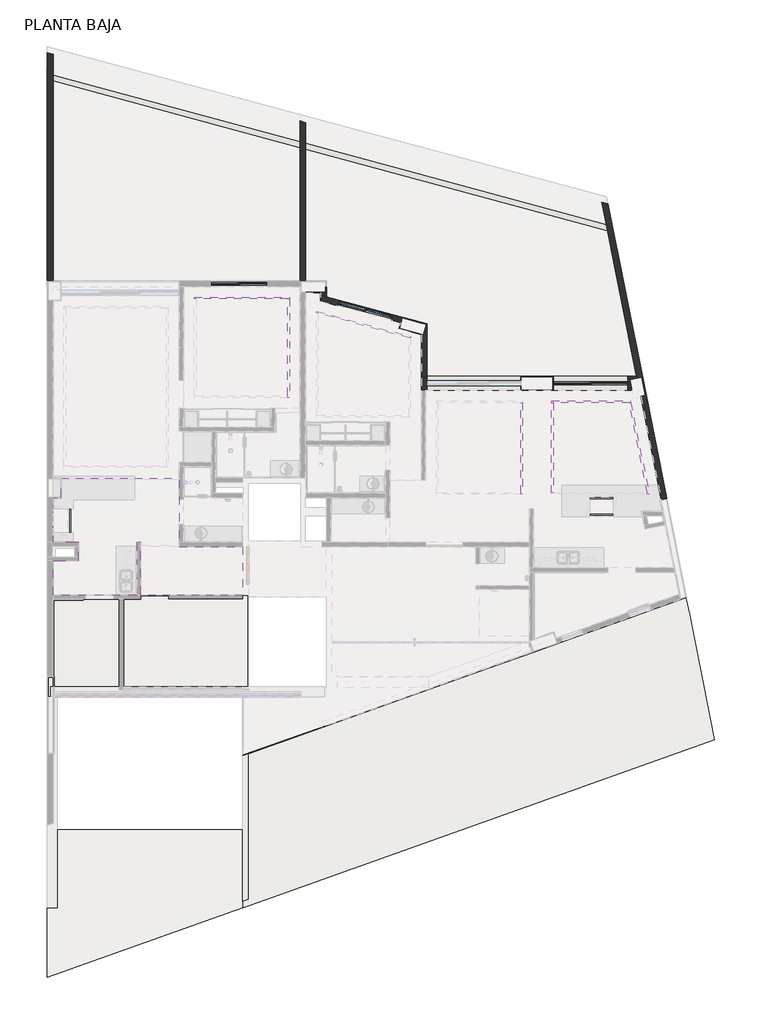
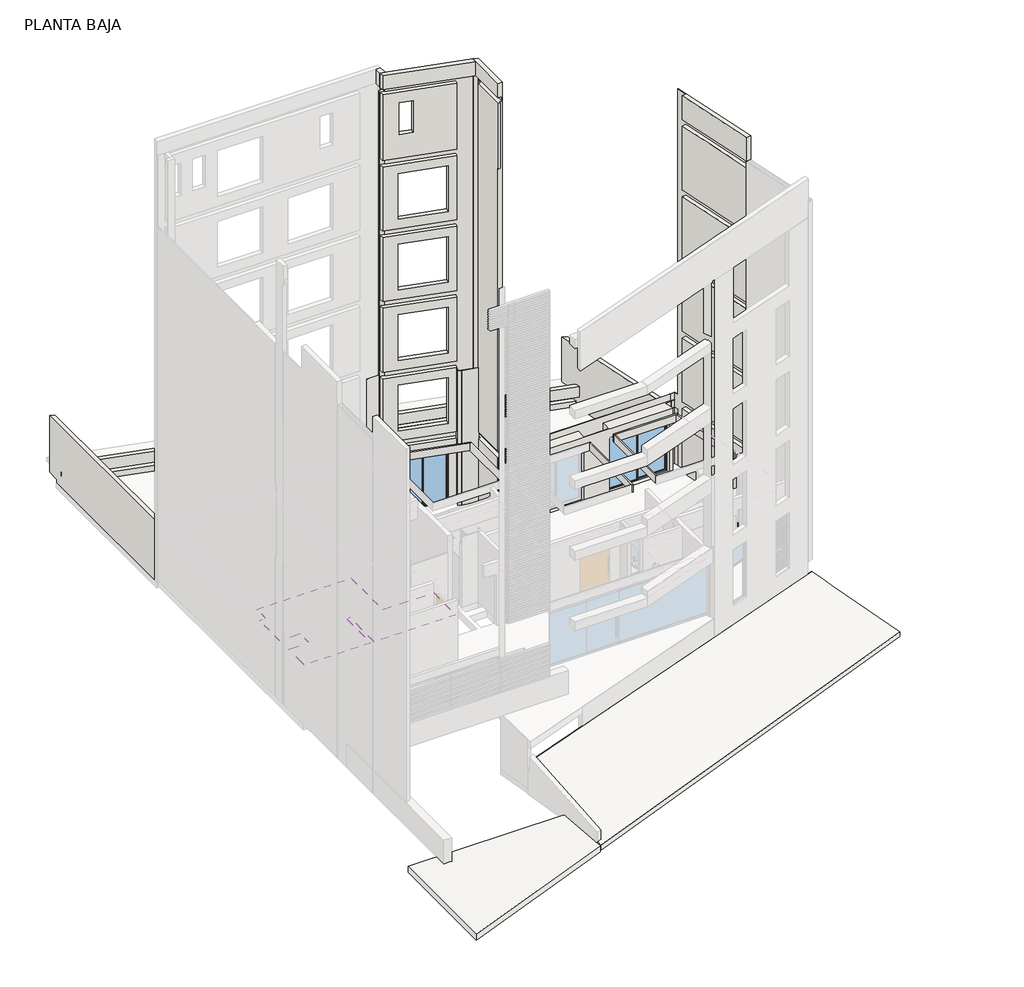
# One storey, part 7 of 8: 20 walls, 3 roofs, 3 slabs, 3 windows, 1 covering.
"""IFC4 building model written with IfcOpenShell, lengths in millimetres."""

from ifc_helpers import new_model, si_unit, frame, origin, place, context, project, spatial, polyline, outline, extrude, faceted_brep, transform, mapped, element, save
from ifc_brep_helpers import plane_surface, spline_surface, advanced_brep
from components import roof_bbefa7aa, roof_b6cbc9c0, roof_d96188d7, window_99f860c4, window_46afee40

model = new_model("IFC4")

# Units and contexts
model_context = context("Model", 3, world=origin())
ifc_project = project(units=[si_unit("LENGTHUNIT", "METRE", prefix="MILLI")], contexts=[model_context])

# Site, building, storey
site = spatial("IfcSite", under=ifc_project)
building = spatial("IfcBuilding", under=site)
storey = spatial("IfcBuildingStorey", under=building, Name="PLANTA BAJA", Elevation=0.0)

# Covering
placement = place(None, origin())
element("IfcCovering", 1, ObjectType="Plafond Tablaroca", at=placement, inside=storey, context=model_context, shape_type="Brep", body=[
    faceted_brep([(38194.5300226, 29724.010184, 2352.7), (38194.5300226, 31876.2733508, 2352.7), (38194.5300226, 31928.9733508, 2352.7), (34403.8589874, 31928.9733508, 2352.7), (34403.8589874, 31876.2733508, 2352.7), (34403.8589874, 31298.9733508, 2352.7), (34143.8589874, 31298.9733508, 2352.7), (34143.8589874, 29864.010184, 2352.7), (34963.8589874, 29864.010184, 2352.7), (34963.8589874, 29274.010184, 2352.7), (34143.8589874, 29274.010184, 2352.7), (34143.8589874, 28172.0432167, 2352.7), (36825.8300226, 28172.0432167, 2352.7), (36825.8300226, 29864.010184, 2352.7), (36965.8300226, 29864.010184, 2352.7), (36965.8300226, 28169.7432167, 2352.7), (40234.5059119, 28169.7432167, 2352.7), (40234.5059119, 29724.010184, 2352.7), (38194.5300226, 29724.010184, 2300.0), (40234.5059119, 29724.010184, 2300.0), (40234.5059119, 28169.7432167, 2300.0), (36965.8300226, 28169.7432167, 2300.0), (36965.8300226, 29864.010184, 2300.0), (36825.8300226, 29864.010184, 2300.0), (36825.8300226, 28172.0432167, 2300.0), (34143.8589874, 28172.0432167, 2300.0), (34143.8589874, 29274.010184, 2300.0), (34963.8589874, 29274.010184, 2300.0), (34963.8589874, 29864.010184, 2300.0), (34143.8589874, 29864.010184, 2300.0), (34143.8589874, 31298.9733508, 2300.0), (34403.8589874, 31298.9733508, 2300.0), (34403.8589874, 31928.9733508, 2300.0), (38194.5300226, 31928.9733508, 2300.0)], [[[0, 1, 2, 3, 4, 5, 6, 7, 8, 9, 10, 11, 12, 13, 14, 15, 16, 17]], [[18, 19, 20, 21, 22, 23, 24, 25, 26, 27, 28, 29, 30, 31, 32, 33]], [[5, 4, 3, 32, 31]], [[6, 5, 31, 30]], [[7, 6, 30, 29]], [[8, 7, 29, 28]], [[9, 8, 28, 27]], [[10, 9, 27, 26]], [[11, 10, 26, 25]], [[12, 11, 25, 24]], [[13, 12, 24, 23]], [[14, 13, 23, 22]], [[15, 14, 22, 21]], [[16, 15, 21, 20]], [[2, 1, 0, 18, 33]], [[3, 2, 33, 32]], [[17, 16, 20, 19]], [[0, 17, 19, 18]]]),
])

# Roofs
roof_shape = roof_bbefa7aa(model_context)
element("IfcRoof", 2, ObjectType="banqueton : banqueton", at=placement, inside=storey, context=model_context, shape_type="MappedRepresentation", body=[
    mapped(roof_shape, transform((0.0, 0.0, 0.0), x_axis=(1.0, 0.0, 0.0), y_axis=(0.0, 1.0, 0.0), z_axis=(0.0, 0.0, 1.0))),
])
roof_2_shape = roof_b6cbc9c0(model_context)
element("IfcRoof", 3, ObjectType="banqueton1 : banqueton", at=placement, inside=storey, context=model_context, shape_type="MappedRepresentation", body=[
    mapped(roof_2_shape, transform((0.0, 0.0, 0.0), x_axis=(1.0, 0.0, 0.0), y_axis=(0.0, 1.0, 0.0), z_axis=(0.0, 0.0, 1.0))),
])
roof_3_shape = roof_d96188d7(model_context)
element("IfcRoof", 4, ObjectType="banqueton2 : banqueton", at=placement, inside=storey, context=model_context, shape_type="MappedRepresentation", body=[
    mapped(roof_3_shape, transform((0.0, 0.0, 0.0), x_axis=(1.0, 0.0, 0.0), y_axis=(0.0, 1.0, 0.0), z_axis=(0.0, 0.0, 1.0))),
])

# Slabs
element("IfcSlab", 5, ObjectType="Suelo-losa 20cms+ceramica_ext 2 LOSA ESTACIONAMIENTO VISITAS", at=placement, inside=storey, context=model_context, shape_type="AdvancedBrep", body=[
    advanced_brep(
    [(55394.5443621, 23533.1124469, -1120.0), (55394.5443621, 23533.1124469, -920.0), (40254.5059119, 18137.9058422, -1420.0), (40254.5059119, 18137.9058422, -1620.0), (40252.1714705, 23018.2962946, -800.0), (40252.1613163, 23039.524613, -800.0), (40252.1613163, 23039.524613, -1000.0), (40252.1714705, 23018.2962946, -1000.0), (42896.1248923, 23981.7104466, -800.0), (54478.0509778, 28108.9710423, -800.0), (54478.0509778, 28108.9710423, -1000.0), (42896.1248923, 23981.7104466, -1000.0), (54482.0201998, 28089.1535518, -804.2107044), (54482.0201998, 28089.1535518, -1004.2107044)],
    [
        (0, 1),
        (1, 2),
        (2, 3),
        (3, 0),
        (2, 4),
        (4, 5),
        (5, 6),
        (6, 7),
        (7, 3),
        (5, 8),
        (8, 9),
        (9, 10),
        (10, 11),
        (11, 6),
        (9, 12),
        (12, 1),
        (0, 13),
        (13, 10),
        (4, 12),
        (13, 7),
    ],
    [
        plane_surface(frame((55394.5443621, 23533.1124469, -200.0), z_axis=(0.3356769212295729, -0.9419771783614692, 0.0), x_axis=(0.0, 0.0, 1.0))),
        plane_surface(frame((40254.5059119, 18137.9058422, -200.0), z_axis=(-0.9999998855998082, -0.0004783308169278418, 0.0), x_axis=(0.0, 0.0, 1.0))),
        plane_surface(frame((40252.1613163, 23039.524613, -200.0), z_axis=(-0.33567692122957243, 0.9419771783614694, 0.0), x_axis=(0.0, 0.0, 1.0))),
        plane_surface(frame((54478.0509778, 28108.9710423, -200.0), z_axis=(0.9805261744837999, 0.19638844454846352, 0.0), x_axis=(0.0, 0.0, 1.0))),
        spline_surface(1, 1, [[(40252.1613163, 23039.524613, -800.0), (54478.0509778, 28108.9710423, -800.0)], [(40252.1714705, 23018.2962946, -800.0), (54482.0201998, 28089.1535518, -804.2107044)]], [2, 2], [2, 2], [0.0, 1.0], [0.0, 1.0]),
        spline_surface(1, 1, [[(40252.1613163, 23039.524613, -1000.0), (40252.1714705, 23018.2962946, -1000.0)], [(54478.0509778, 28108.9710423, -1000.0), (54482.0201998, 28089.1535518, -1004.2107044)]], [2, 2], [2, 2], [0.0, 1.0], [0.0, 1.0]),
        spline_surface(1, 1, [[(55394.5443621, 23533.1124469, -920.0), (40254.5059119, 18137.9058422, -1420.0)], [(54482.0201998, 28089.1535518, -804.2107044), (40252.1714705, 23018.2962946, -800.0)]], [2, 2], [2, 2], [0.0, 1.0], [0.0, 1.0]),
        spline_surface(1, 1, [[(55394.5443621, 23533.1124469, -1120.0), (54482.0201998, 28089.1535518, -1004.2107044)], [(40254.5059119, 18137.9058422, -1620.0), (40252.1714705, 23018.2962946, -1000.0)]], [2, 2], [2, 2], [0.0, 1.0], [0.0, 1.0]),
    ],
    [
        (0, [[1, 2, 3, 4]]),
        (1, [[-3, 5, 6, 7, 8, 9]]),
        (2, [[-7, 10, 11, 12, 13, 14]]),
        (3, [[-12, 15, 16, -1, 17, 18]]),
        (4, [[-11, -10, -6, 19, -15]]),
        (5, [[-18, 20, -8, -14, -13]]),
        (6, [[-2, -16, -19, -5]]),
        (7, [[-9, -20, -17, -4]]),
    ],
),
])
element("IfcSlab", 6, ObjectType="Suelo-losa 15cms+ceramica PB ESTUDIO", at=placement, inside=storey, context=model_context, shape_type="Brep", body=[
    faceted_brep([(33983.8589874, 24924.0112971, 0.0), (33983.8589874, 25552.4819737, 0.0), (33983.8589874, 27969.7432167, 0.0), (33983.8589874, 28157.0432167, 0.0), (34143.8589874, 28157.0432167, 0.0), (36965.8300226, 28157.0432167, 0.0), (40234.5059119, 28157.0432167, 0.0), (40394.5059119, 28157.0432167, 0.0), (40394.5059119, 25224.0112971, 0.0), (40394.5059119, 24924.0112971, 0.0), (34068.8589874, 24924.0112971, 0.0), (33983.8589874, 24924.0112971, 180.0), (34068.8589874, 24924.0112971, 180.0), (40394.5059119, 24924.0112971, 180.0), (40394.5059119, 25224.0112971, 180.0), (40394.5059119, 28157.0432167, 180.0), (40234.5059119, 28157.0432167, 180.0), (37865.8300226, 28157.0432167, 180.0), (36965.8300226, 28157.0432167, 180.0), (34143.8589874, 28157.0432167, 180.0), (33983.8589874, 28157.0432167, 180.0), (33983.8589874, 25552.4819737, 180.0)], [[[0, 1, 2, 3, 4, 5, 6, 7, 8, 9, 10]], [[11, 12, 13, 14, 15, 16, 17, 18, 19, 20, 21]], [[3, 2, 1, 0, 11, 21, 20]], [[0, 10, 9, 13, 12, 11]], [[7, 6, 5, 4, 3, 20, 19, 18, 17, 16, 15]], [[9, 8, 7, 15, 14, 13]]]),
])
element("IfcSlab", 7, ObjectType="Losa sótano en rampa", at=placement, inside=storey, context=model_context, shape_type="AdvancedBrep", body=[
    advanced_brep(
    [(40234.5059119, 18130.778771, -1670.0), (40234.5059119, 18130.778771, -1420.0), (33963.8589874, 15896.211414, -1630.0), (33963.8589874, 15896.211414, -1880.0), (33963.8589874, 20637.9058422, -1630.0), (33963.8589874, 20637.9058422, -1880.0), (40234.5059119, 20637.9058422, -1630.0), (40234.5059119, 20637.9058422, -1880.0)],
    [
        (0, 1),
        (1, 2),
        (2, 3),
        (3, 0),
        (2, 4),
        (4, 5),
        (5, 3),
        (4, 6),
        (6, 7),
        (7, 5),
        (6, 1),
        (0, 7),
    ],
    [
        plane_surface(frame((40234.5059119, 18130.778771, -250.0), z_axis=(0.33567692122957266, -0.9419771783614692, 0.0), x_axis=(0.0, 0.0, 1.0))),
        plane_surface(frame((33963.8589874, 15896.211414, -250.0), z_axis=(-1.0, 0.0, 0.0), x_axis=(0.0, 0.0, 1.0))),
        plane_surface(frame((33963.8589874, 20637.9058422, -250.0), z_axis=(0.0, 1.0, 0.0), x_axis=(0.0, 0.0, 1.0))),
        plane_surface(frame((40234.5059119, 20637.9058422, -250.0), z_axis=(1.0, 0.0, 0.0), x_axis=(0.0, 0.0, 1.0))),
        spline_surface(1, 1, [[(40234.5059119, 18130.778771, -1420.0), (33963.8589874, 15896.211414, -1630.0)], [(40234.5059119, 20637.9058422, -1630.0), (33963.8589874, 20637.9058422, -1630.0)]], [2, 2], [2, 2], [0.0, 1.0], [0.0, 1.0]),
        spline_surface(1, 1, [[(40234.5059119, 18130.778771, -1670.0), (40234.5059119, 20637.9058422, -1880.0)], [(33963.8589874, 15896.211414, -1880.0), (33963.8589874, 20637.9058422, -1880.0)]], [2, 2], [2, 2], [0.0, 1.0], [0.0, 1.0]),
    ],
    [
        (0, [[1, 2, 3, 4]]),
        (1, [[-3, 5, 6, 7]]),
        (2, [[-6, 8, 9, 10]]),
        (3, [[-9, 11, -1, 12]]),
        (4, [[-2, -11, -8, -5]]),
        (5, [[-7, -10, -12, -4]]),
    ],
),
])

# Walls
element("IfcWall", 8, ObjectType="Plafond tablaroca", at=placement, inside=storey, context=model_context, shape_type="Brep", body=[
    faceted_brep([(38681.8300226, 37680.4026232, 2502.7), (38734.5300226, 37680.4026232, 2502.7), (41684.5059119, 37680.4026232, 2502.7), (41737.2059119, 37680.4026232, 2502.7), (41737.2059119, 37680.4026232, 2720.0), (41684.5059119, 37680.4026232, 2720.0), (38734.5300226, 37680.4026232, 2720.0), (38681.8300226, 37680.4026232, 2720.0), (38681.8300226, 37733.1026232, 2502.7), (38681.8300226, 37733.1026232, 2720.0), (41737.2059119, 37733.1026232, 2720.0), (41737.2059119, 37733.1026232, 2502.7)], [[[0, 1, 2, 3, 4, 5, 6, 7]], [[8, 9, 10, 11]], [[7, 6, 5, 4, 10, 9]], [[4, 3, 11, 10]], [[0, 7, 9, 8]], [[3, 2, 1, 0, 8, 11]]]),
])
element("IfcWall", 9, ObjectType="Plafond tablaroca", at=placement, inside=storey, context=model_context, shape_type="Brep", body=[
    faceted_brep([(41684.5059119, 37680.4026232, 2502.7), (41684.5059119, 34568.9785701, 2502.7), (41684.5059119, 34516.2785701, 2502.7), (41684.5059119, 34516.2785701, 2720.0), (41684.5059119, 34568.9785701, 2720.0), (41684.5059119, 37680.4026232, 2720.0), (41737.2059119, 37680.4026232, 2502.7), (41737.2059119, 37680.4026232, 2720.0), (41737.2059119, 34516.2785701, 2720.0), (41737.2059119, 34516.2785701, 2502.7)], [[[0, 1, 2, 3, 4, 5]], [[6, 7, 8, 9]], [[5, 4, 3, 8, 7]], [[0, 5, 7, 6]], [[3, 2, 9, 8]], [[2, 1, 0, 6, 9]]]),
])
element("IfcWall", 10, ObjectType="Plafond tablaroca", at=placement, inside=storey, context=model_context, shape_type="Brep", body=[
    faceted_brep([(42611.8059119, 37233.5489662, 2402.7), (42664.5059119, 37219.3779563, 2402.7), (45574.5059119, 36436.8800645, 2402.7), (45627.2059119, 36422.7090546, 2402.7), (45627.2059119, 36422.7090546, 2720.0), (45574.5059119, 36436.8800645, 2720.0), (42664.5059119, 37219.3779563, 2720.0), (42611.8059119, 37233.5489662, 2720.0), (42611.8059119, 37288.121006, 2402.7), (42611.8059119, 37288.121006, 2720.0), (45627.2059119, 36477.2810943, 2720.0), (45627.2059119, 36477.2810943, 2402.7)], [[[0, 1, 2, 3, 4, 5, 6, 7]], [[8, 9, 10, 11]], [[7, 6, 5, 4, 10, 9]], [[4, 3, 11, 10]], [[0, 7, 9, 8]], [[3, 2, 1, 0, 8, 11]]]),
])
element("IfcWall", 11, ObjectType="Plafond tablaroca", at=placement, inside=storey, context=model_context, shape_type="Brep", body=[
    faceted_brep([(49174.5059119, 34354.0104642, 2402.7), (49174.5059119, 31464.0100656, 2402.7), (49174.5059119, 31411.3100656, 2402.7), (49174.5059119, 31411.3100656, 2720.0), (49174.5059119, 31464.0100656, 2720.0), (49174.5059119, 34354.0104642, 2720.0), (49227.2059119, 34354.0104642, 2402.7), (49227.2059119, 34354.0104642, 2720.0), (49227.2059119, 31411.3100656, 2720.0), (49227.2059119, 31411.3100656, 2402.7)], [[[0, 1, 2, 3, 4, 5]], [[6, 7, 8, 9]], [[5, 4, 3, 8, 7]], [[0, 5, 7, 6]], [[3, 2, 9, 8]], [[2, 1, 0, 6, 9]]]),
])
element("IfcWall", 12, ObjectType="Plafond tablaroca", at=placement, inside=storey, context=model_context, shape_type="Brep", body=[
    faceted_brep([(50161.7822189, 34354.0104642, 2402.7), (50214.4822189, 34354.0104642, 2402.7), (52656.1173826, 34354.0104642, 2402.7), (52709.8640356, 34354.0104642, 2402.7), (52709.8640356, 34354.0104642, 2720.0), (52656.1173826, 34354.0104642, 2720.0), (50214.4822189, 34354.0104642, 2720.0), (50161.7822189, 34354.0104642, 2720.0), (50161.7822189, 34406.7104642, 2402.7), (50161.7822189, 34406.7104642, 2720.0), (52699.308814, 34406.7104642, 2720.0), (52699.308814, 34406.7104642, 2402.7)], [[[0, 1, 2, 3, 4, 5, 6, 7]], [[8, 9, 10, 11]], [[7, 6, 5, 4, 10, 9]], [[4, 3, 11, 10]], [[0, 7, 9, 8]], [[3, 2, 1, 0, 8, 11]]]),
])
element("IfcWall", 13, ObjectType="Plafond tablaroca", at=placement, inside=storey, context=model_context, shape_type="Brep", body=[
    faceted_brep([(52656.1173826, 34354.0104642, 2402.7), (53234.9521938, 31464.0100656, 2402.7), (53245.5074153, 31411.3100656, 2402.7), (53245.5074153, 31411.3100656, 2720.0), (53234.9521938, 31464.0100656, 2720.0), (52656.1173826, 34354.0104642, 2720.0), (52709.8640356, 34354.0104642, 2402.7), (52709.8640356, 34354.0104642, 2720.0), (53299.2540683, 31411.3100656, 2720.0), (53299.2540683, 31411.3100656, 2402.7)], [[[0, 1, 2, 3, 4, 5]], [[6, 7, 8, 9]], [[5, 4, 3, 8, 7]], [[0, 5, 7, 6]], [[3, 2, 9, 8]], [[2, 1, 0, 6, 9]]]),
])
element("IfcWall", 14, ObjectType="Plafond tablaroca", at=placement, inside=storey, context=model_context, shape_type="SweptSolid", body=[
    extrude(outline(polyline([(50214.4822189, 34354.0104642), (50214.4822189, 31464.0100656), (50161.7822189, 31464.0100656), (50161.7822189, 34354.0104642), (50214.4822189, 34354.0104642)])), frame((0.0, 0.0, 2402.7), z_axis=(0.0, 0.0, 1.0), x_axis=(1.0, 0.0, 0.0)), (0.0, 0.0, 1.0), 317.3),
])
element("IfcWall", 15, ObjectType="Muro block 14cms_int", at=placement, inside=storey, context=model_context, shape_type="Brep", body=[
    faceted_brep([(42264.5059119, 37875.4026232, 0.0), (42744.5059119, 37875.4026232, 0.0), (42744.5059119, 37875.4026232, 5720.0), (42264.5059119, 37875.4026232, 5720.0), (42264.5059119, 37890.4026232, 0.0), (42744.5059119, 37890.4026232, 0.0), (42744.5059119, 37890.4026232, 5720.0), (42264.5059119, 37890.4026232, 2720.0), (42264.5059119, 37890.4026232, 3000.0), (42264.5059119, 37890.4026232, 5720.0)], [[[0, 1, 2, 3]], [[1, 0, 4, 5]], [[2, 1, 5, 6]], [[5, 4, 7, 8, 9, 6]], [[3, 2, 6, 9]], [[0, 3, 9, 8, 7, 4]]]),
])
element("IfcWall", 16, ObjectType="Muro block 14cms_int", at=placement, inside=storey, context=model_context, shape_type="Brep", body=[
    faceted_brep([(45388.6002534, 36688.7969276, 0.0), (45974.5059119, 36531.2471191, 0.0), (45974.5059119, 36531.2471191, 5720.0), (45388.6002534, 36688.7969276, 5720.0), (45392.4953827, 36703.2823674, 0.0), (45974.5059119, 36546.7799578, 0.0), (45974.5059119, 36546.7799578, 2720.0), (45974.5059119, 36546.7799578, 3000.0), (45974.5059119, 36546.7799578, 5720.0), (45392.4953827, 36703.2823674, 5720.0)], [[[0, 1, 2, 3]], [[1, 0, 4, 5]], [[2, 1, 5, 6, 7, 8]], [[0, 3, 9, 4]], [[5, 4, 9, 8, 7, 6]], [[3, 2, 8, 9]]]),
])
element("IfcWall", 17, ObjectType="Muro block 14cms_int", at=placement, inside=storey, context=model_context, shape_type="Brep", body=[
    faceted_brep([(45388.6002534, 36688.7969276, 5720.0), (45388.6002534, 36688.7969276, 0.0), (45392.4953827, 36703.2823674, 0.0), (45392.4953827, 36703.2823674, 5720.0), (45306.6362479, 36923.1191455, 0.0), (45253.4028147, 36725.1514674, 0.0), (45253.4028147, 36725.1514674, 5720.0), (45306.6362479, 36923.1191455, 5720.0), (45321.1216878, 36919.2240162, 0.0), (45271.7833838, 36735.741778, 0.0), (45321.1216878, 36919.2240162, 5720.0), (45321.1216878, 36919.2240162, 3000.0), (45321.1216878, 36919.2240162, 2720.0), (45271.7833838, 36735.741778, 5720.0)], [[[0, 1, 2, 3]], [[4, 5, 6, 7]], [[5, 4, 8, 9, 2, 1]], [[1, 0, 6, 5]], [[4, 7, 10, 11, 12, 8]], [[9, 13, 3, 2]], [[13, 9, 8, 12, 11, 10]], [[7, 6, 0, 3, 13, 10]]]),
])
element("IfcWall", 18, ObjectType="Muro block 18cms_ext", at=placement, inside=storey, context=model_context, shape_type="Brep", body=[
    faceted_brep([(52899.8247733, 35174.0104642, 2720.0), (52899.8247733, 35174.0104642, 3000.0), (52895.8189966, 35194.0104642, 3000.0), (52895.8189966, 35194.0104642, 2400.0), (52906.1182793, 35142.5883131, 2400.0), (52906.1182793, 35142.5883131, 2720.0), (53689.1186644, 31233.2321699, 2720.0), (53023.9513461, 34554.2726084, 2720.0), (53023.9513461, 34554.2726084, 0.0), (53689.1186644, 31233.2321699, 0.0), (53023.9513461, 34554.2726084, 3000.0), (53076.5996985, 34291.4104642, 3000.0), (53100.1136077, 34174.0104642, 3000.0), (53310.4167001, 33124.0113812, 3000.0), (53338.4571369, 32984.0113812, 3000.0), (53689.1186644, 31233.2321699, 3000.0), (53689.1186644, 31233.2321699, 5720.0), (53338.4571369, 32984.0113812, 5720.0), (53310.4167001, 33124.0113812, 5720.0), (53023.9513461, 34554.2726084, 5720.0), (53023.9513461, 34554.2726084, 12000.0), (53027.879115, 34534.6620849, 12000.0), (53221.2947578, 33568.9784839, 12000.0), (53249.3351946, 33428.9784839, 12000.0), (53689.1186644, 31233.2321699, 12000.0), (53689.1186644, 31233.2321699, 14720.0), (53249.3351946, 33428.9784839, 14720.0), (53221.2947578, 33568.9784839, 14720.0), (53023.9513461, 34554.2726084, 14720.0), (53023.9513461, 34554.2726084, 14000.0), (53023.9513461, 34554.2726084, 9000.0), (53076.5996985, 34291.4104642, 9000.0), (53100.1136077, 34174.0104642, 9000.0), (53310.4167001, 33124.0113812, 9000.0), (53338.4571369, 32984.0113812, 9000.0), (53689.1186644, 31233.2321699, 9000.0), (53689.1186644, 31233.2321699, 11720.0), (53023.9513461, 34554.2726084, 11720.0), (53023.9513461, 34554.2726084, 6000.0), (53076.5996985, 34291.4104642, 6000.0), (53100.1136077, 34174.0104642, 6000.0), (53310.4167001, 33124.0113812, 6000.0), (53338.4571369, 32984.0113812, 6000.0), (53689.1186644, 31233.2321699, 6000.0), (53689.1186644, 31233.2321699, 8720.0), (53338.4571369, 32984.0113812, 8720.0), (53310.4167001, 33124.0113812, 8720.0), (53023.9513461, 34554.2726084, 8720.0), (53689.1186644, 31233.2321699, 16000.0), (53023.9513461, 34554.2726084, 16000.0), (53023.9513461, 34554.2726084, 15000.0), (53646.9021244, 31444.0104694, 15000.0), (53674.9425613, 31304.0104694, 15000.0), (53689.1186644, 31233.2321699, 15000.0), (53115.4458925, 35014.0104642, 16000.0), (53865.6133758, 31268.5820899, 16000.0), (53865.6133758, 31268.5820899, 15000.0), (53865.6133758, 31268.5820899, -280.0), (53119.9173487, 34991.6854242, -280.0), (53119.9173487, 34991.6854242, 2400.0), (53079.3939023, 35194.0104642, 2400.0), (53079.3939023, 35194.0104642, 3000.0), (53115.4458925, 35014.0104642, 3000.0), (53846.0028523, 31264.654321, -280.0), (53100.3068252, 34987.7576553, -280.0), (53095.0486808, 35014.0104642, 16000.0), (53180.835534, 34585.6947595, 16000.0), (53180.835534, 34585.6947595, 0.0), (53846.0028523, 31264.654321, 0.0), (53063.0024673, 35174.0104642, 3000.0), (53063.0024673, 35174.0104642, 2720.0), (53063.0024673, 35174.0104642, 2400.0), (53100.3068252, 34987.7576553, 2400.0), (53180.835534, 34585.6947595, 2720.0), (53846.0028523, 31264.654321, 2720.0), (53846.0028523, 31264.654321, 3000.0), (53180.835534, 34585.6947595, 3000.0), (53180.835534, 34585.6947595, 5720.0), (53846.0028523, 31264.654321, 5720.0), (53846.0028523, 31264.654321, 6000.0), (53180.835534, 34585.6947595, 6000.0), (53180.835534, 34585.6947595, 8720.0), (53846.0028523, 31264.654321, 8720.0), (53846.0028523, 31264.654321, 9000.0), (53180.835534, 34585.6947595, 9000.0), (53180.835534, 34585.6947595, 11720.0), (53846.0028523, 31264.654321, 11720.0), (53846.0028523, 31264.654321, 12000.0), (53180.835534, 34585.6947595, 12000.0), (53180.835534, 34585.6947595, 14720.0), (53846.0028523, 31264.654321, 14720.0), (53846.0028523, 31264.654321, 15000.0), (53180.835534, 34585.6947595, 15000.0), (53095.0486808, 35014.0104642, 3000.0)], [[[0, 1, 2, 3, 4, 5]], [[6, 7, 8, 9]], [[10, 11, 12, 13, 14, 15, 16, 17, 18, 19]], [[20, 21, 22, 23, 24, 25, 26, 27, 28, 29]], [[30, 31, 32, 33, 34, 35, 36, 37]], [[38, 39, 40, 41, 42, 43, 44, 45, 46, 47]], [[48, 49, 50, 51, 52, 53]], [[54, 55, 56, 57, 58, 59, 60, 61, 62]], [[58, 57, 63, 64]], [[55, 54, 65, 66, 49, 48]], [[9, 8, 67, 68]], [[69, 70, 71, 72, 64, 63, 68, 67, 73, 74, 75, 76, 77, 78, 79, 80, 81, 82, 83, 84, 85, 86, 87, 88, 89, 90, 91, 92, 66, 65, 93]], [[70, 0, 5]], [[7, 6, 74, 73]], [[15, 14, 13, 12, 11, 10, 76, 75]], [[70, 69, 1, 0]], [[3, 60, 59, 72, 71, 4]], [[62, 61, 2, 1, 69, 93]], [[3, 2, 61, 60]], [[54, 62, 93, 65]], [[59, 58, 64, 72]], [[76, 10, 19, 77]], [[73, 67, 8, 7]], [[80, 38, 47, 81]], [[84, 30, 37, 85]], [[88, 20, 29, 28, 89]], [[49, 66, 92, 50]], [[71, 70, 5, 4]], [[78, 77, 19, 18, 17, 16]], [[80, 79, 43, 42, 41, 40, 39, 38]], [[82, 81, 47, 46, 45, 44]], [[84, 83, 35, 34, 33, 32, 31, 30]], [[86, 85, 37, 36]], [[88, 87, 24, 23, 22, 21, 20]], [[57, 56, 55, 48, 53, 91, 90, 25, 24, 87, 86, 36, 35, 83, 82, 44, 43, 79, 78, 16, 15, 75, 74, 6, 9, 68, 63]], [[90, 89, 28, 27, 26, 25]], [[92, 91, 53, 52, 51, 50]]]),
])
element("IfcWall", 19, ObjectType="Muro block 18cms_ext", at=placement, inside=storey, context=model_context, shape_type="Brep", body=[
    faceted_brep([(45974.5059119, 35194.0104642, 18600.0), (45974.5059119, 36743.5292472, 18600.0), (45974.5059119, 36929.9233109, 18600.0), (45974.5059119, 36929.9233109, -139.1170191), (45974.5059119, 36929.9233109, -143.1125334), (45974.5059119, 36909.2128593, -143.1125334), (45974.5059119, 36909.2128593, -139.1170191), (45974.5059119, 36909.2128593, 18000.0), (45974.5059119, 36743.5292472, 18000.0), (45974.5059119, 35194.0104642, 18000.0), (45974.5059119, 35194.0104642, 15000.0), (45974.5059119, 35154.0104642, 15000.0), (45974.5059119, 35154.0104642, 17200.0), (45974.5059119, 35154.0104642, 17800.0), (45974.5059119, 36546.7799578, 17800.0), (45974.5059119, 36546.7799578, 5720.0), (45974.5059119, 36546.7799578, 3000.0), (45974.5059119, 35194.0104642, 3000.0), (45974.5059119, 35194.0104642, 5720.0), (45974.5059119, 35194.0104642, 6000.0), (45974.5059119, 35194.0104642, 8720.0), (45974.5059119, 35194.0104642, 9000.0), (45974.5059119, 35194.0104642, 11720.0), (45974.5059119, 35194.0104642, 12000.0), (45974.5059119, 35194.0104642, 14720.0), (45974.5059119, 35194.0104642, -143.1125334), (45974.5059119, 35194.0104642, 2720.0), (45974.5059119, 36546.7799578, 2720.0), (45974.5059119, 36546.7799578, 0.0), (45974.5059119, 36546.7799578, -143.1125334), (46154.5059119, 35194.0104642, -143.1125334), (46154.5059119, 36881.5213794, -143.1125334), (46154.5059119, 36881.5213794, 18600.0), (46154.5059119, 35194.0104642, 18600.0), (46154.5059119, 35194.0104642, 17350.0), (46154.5059119, 35194.0104642, 16000.0), (46154.5059119, 35194.0104642, 14350.0), (46154.5059119, 35194.0104642, 12400.0), (46154.5059119, 35194.0104642, 11350.0), (46154.5059119, 35194.0104642, 9400.0), (46154.5059119, 35194.0104642, 8350.0), (46154.5059119, 35194.0104642, 6400.0), (46154.5059119, 35194.0104642, 5350.0), (46154.5059119, 35194.0104642, 3400.0), (46154.5059119, 35194.0104642, 3000.0), (46154.5059119, 35194.0104642, 2350.0), (46154.5059119, 35194.0104642, 0.0), (46044.3401765, 36528.0015506, -143.1125334), (46135.226526, 36865.9951474, -143.1125334), (46134.5059119, 35194.0104642, 2720.0), (46134.5059119, 36863.3152848, 2720.0), (46044.3401765, 36528.0015506, 2720.0), (46134.5059119, 35194.0104642, 3000.0), (46044.3401765, 36528.0015506, 3000.0), (46134.5059119, 36863.3152848, 3000.0), (46135.226526, 36865.9951474, 17800.0), (46134.5059119, 36866.1889203, 17800.0), (46134.5059119, 36866.1889203, 18000.0), (46134.5059119, 35194.0104642, 18000.0), (46134.5059119, 36863.3152848, 17800.0), (46134.5059119, 35194.0104642, 17800.0), (46044.3401765, 36528.0015506, 17800.0), (46044.5059119, 35194.0104642, 15000.0), (46044.5059119, 35154.0104642, 15000.0), (46044.5059119, 35154.0104642, 17800.0), (46044.5059119, 35194.0104642, 17800.0)], [[[0, 1, 2, 3, 4, 5, 6, 7, 8, 9]], [[10, 11, 12, 13, 14, 15, 16, 17, 18, 19, 20, 21, 22, 23, 24]], [[25, 26, 27, 28, 29]], [[30, 31, 32, 33, 34, 35, 36, 37, 38, 39, 40, 41, 42, 43, 44, 45, 46]], [[31, 30, 25, 29, 47, 48, 5, 4]], [[2, 1, 0, 33, 32]], [[4, 3, 2, 32, 31]], [[26, 49, 50, 51, 27]], [[52, 17, 16, 53, 54]], [[5, 48, 55, 56, 57, 7, 6]], [[49, 52, 54, 50]], [[7, 57, 58, 9, 8]], [[57, 56, 59, 60, 58]], [[59, 55, 48, 47, 51, 50, 54, 53, 61]], [[51, 47, 29, 28, 27]], [[61, 53, 16, 15, 14]], [[56, 55, 59]], [[11, 10, 62, 63]], [[64, 65, 60, 59, 61, 14, 13]], [[13, 12, 11, 63, 64]], [[63, 62, 65, 64]], [[25, 30, 46, 45, 44, 43, 42, 41, 40, 39, 38, 37, 36, 35, 34, 33, 0, 9, 58, 60, 65, 62, 10, 24, 23, 22, 21, 20, 19, 18, 17, 52, 49, 26]]]),
])
element("IfcWall", 20, ObjectType="Muro block 18cms_ext", at=placement, inside=storey, context=model_context, shape_type="Brep", body=[
    faceted_brep([(45974.5059119, 36743.5292472, 18600.0), (42744.5059119, 37612.0750171, 18600.0), (42744.5059119, 37612.0750171, 18000.0), (45974.5059119, 36743.5292472, 18000.0), (43283.1097946, 37467.2446382, 0.0), (43283.1097946, 37467.2446382, 2350.0), (45021.3625782, 36999.8291266, 2350.0), (45021.3625782, 36999.8291266, 0.0), (45306.6362479, 36923.1191455, 0.0), (45321.1216878, 36919.2240162, 0.0), (45321.1216878, 36919.2240162, 2720.0), (42744.5059119, 37612.0750171, 2720.0), (42744.5059119, 37612.0750171, 0.0), (42744.5059119, 37612.0750171, 3000.0), (45321.1216878, 36919.2240162, 3000.0), (45321.1216878, 36919.2240162, 5720.0), (45306.6362479, 36923.1191455, 5720.0), (42744.5059119, 37612.0750171, 5720.0), (45021.3625782, 36999.8291266, 5350.0), (45021.3625782, 36999.8291266, 3400.0), (43283.1097946, 37467.2446382, 3400.0), (43283.1097946, 37467.2446382, 5350.0), (45321.1216878, 36919.2240162, 17800.0), (42744.5059119, 37612.0750171, 17800.0), (42744.5059119, 37612.0750171, 15000.0), (45321.1216878, 36919.2240162, 15000.0), (43318.0193132, 37457.8574819, 16000.0), (43318.0193132, 37457.8574819, 17350.0), (43800.8673087, 37328.0198398, 17350.0), (43800.8673087, 37328.0198398, 16000.0), (42744.5059119, 37612.0750171, 12000.0), (45321.1216878, 36919.2240162, 12000.0), (45321.1216878, 36919.2240162, 14720.0), (42744.5059119, 37612.0750171, 14720.0), (45021.3625782, 36999.8291266, 14350.0), (45021.3625782, 36999.8291266, 12400.0), (43283.1097946, 37467.2446382, 12400.0), (43283.1097946, 37467.2446382, 14350.0), (45321.1216878, 36919.2240162, 11720.0), (42744.5059119, 37612.0750171, 11720.0), (42744.5059119, 37612.0750171, 9000.0), (45321.1216878, 36919.2240162, 9000.0), (45021.3625782, 36999.8291266, 11350.0), (45021.3625782, 36999.8291266, 9400.0), (43283.1097946, 37467.2446382, 9400.0), (43283.1097946, 37467.2446382, 11350.0), (45321.1216878, 36919.2240162, 8720.0), (42744.5059119, 37612.0750171, 8720.0), (42744.5059119, 37612.0750171, 6000.0), (45321.1216878, 36919.2240162, 6000.0), (45021.3625782, 36999.8291266, 8350.0), (45021.3625782, 36999.8291266, 6400.0), (43283.1097946, 37467.2446382, 6400.0), (43283.1097946, 37467.2446382, 8350.0), (42744.5059119, 37798.4690808, 18600.0), (42924.5059119, 37750.0671493, 18600.0), (45974.5059119, 36929.9233109, 18600.0), (45974.5059119, 36929.9233109, -139.1170191), (42904.5059119, 37755.4451417, -139.1170191), (42904.5059119, 37755.4451417, 0.0), (42744.5059119, 37798.4690808, 0.0), (42744.5059119, 37798.4690808, 2720.0), (42904.5059119, 37755.4451417, 2720.0), (42904.5059119, 37755.4451417, 3000.0), (42744.5059119, 37798.4690808, 3000.0), (42744.5059119, 37798.4690808, 5720.0), (42904.5059119, 37755.4451417, 5720.0), (42904.5059119, 37755.4451417, 6000.0), (42744.5059119, 37798.4690808, 6000.0), (42744.5059119, 37798.4690808, 8720.0), (42904.5059119, 37755.4451417, 8720.0), (42904.5059119, 37755.4451417, 9000.0), (42744.5059119, 37798.4690808, 9000.0), (42744.5059119, 37798.4690808, 11720.0), (42904.5059119, 37755.4451417, 11720.0), (42904.5059119, 37755.4451417, 12000.0), (42744.5059119, 37798.4690808, 12000.0), (42744.5059119, 37798.4690808, 14720.0), (42904.5059119, 37755.4451417, 14720.0), (42904.5059119, 37755.4451417, 15000.0), (42744.5059119, 37798.4690808, 15000.0), (42744.5059119, 37798.4690808, 17800.0), (42904.5059119, 37755.4451417, 17800.0), (42904.5059119, 37755.4451417, 18000.0), (42744.5059119, 37798.4690808, 18000.0), (45068.1041294, 37173.654405, 3400.0), (45068.1041294, 37173.654405, 5350.0), (43329.8513458, 37641.0699165, 5350.0), (43329.8513458, 37641.0699165, 3400.0), (45068.1041294, 37173.654405, 6400.0), (45068.1041294, 37173.654405, 8350.0), (43329.8513458, 37641.0699165, 8350.0), (43329.8513458, 37641.0699165, 6400.0), (45068.1041294, 37173.654405, 9400.0), (45068.1041294, 37173.654405, 11350.0), (43329.8513458, 37641.0699165, 11350.0), (43329.8513458, 37641.0699165, 9400.0), (45068.1041294, 37173.654405, 12400.0), (45068.1041294, 37173.654405, 14350.0), (43329.8513458, 37641.0699165, 14350.0), (43329.8513458, 37641.0699165, 12400.0), (43364.7608644, 37631.6827603, 17350.0), (43364.7608644, 37631.6827603, 16000.0), (43847.6088598, 37501.8451182, 16000.0), (43847.6088598, 37501.8451182, 17350.0), (43329.8513458, 37641.0699165, 2350.0), (43329.8513458, 37641.0699165, 0.0), (45068.1041294, 37173.654405, 0.0), (45068.1041294, 37173.654405, 2350.0), (45974.5059119, 36909.2128593, -139.1170191), (42904.5059119, 37734.7346902, -139.1170191), (45974.5059119, 36909.2128593, 18000.0), (45362.6697333, 37073.7353748, 2720.0), (42904.5059119, 37734.7346902, 2720.0), (42904.5059119, 37734.7346902, 3000.0), (45362.6697333, 37073.7353748, 3000.0), (45362.6697333, 37073.7353748, 0.0), (45062.9106237, 37154.3404852, 0.0), (43324.6578401, 37621.7559967, 0.0), (42904.5059119, 37734.7346902, 0.0), (42904.5059119, 37734.7346902, 18000.0), (42904.5059119, 37734.7346902, 17800.0), (45362.6697333, 37073.7353748, 17800.0), (45362.6697333, 37073.7353748, 15000.0), (42904.5059119, 37734.7346902, 15000.0), (42904.5059119, 37734.7346902, 14720.0), (45362.6697333, 37073.7353748, 14720.0), (45362.6697333, 37073.7353748, 12000.0), (42904.5059119, 37734.7346902, 12000.0), (42904.5059119, 37734.7346902, 11720.0), (45362.6697333, 37073.7353748, 11720.0), (45362.6697333, 37073.7353748, 9000.0), (42904.5059119, 37734.7346902, 9000.0), (42904.5059119, 37734.7346902, 8720.0), (45362.6697333, 37073.7353748, 8720.0), (45362.6697333, 37073.7353748, 6000.0), (42904.5059119, 37734.7346902, 6000.0), (42904.5059119, 37734.7346902, 5720.0), (45362.6697333, 37073.7353748, 5720.0)], [[[0, 1, 2, 3]], [[4, 5, 6, 7, 8, 9, 10, 11, 12]], [[13, 14, 15, 16, 17], [18, 19, 20, 21]], [[22, 23, 24, 25], [26, 27, 28, 29]], [[30, 31, 32, 33], [34, 35, 36, 37]], [[38, 39, 40, 41], [42, 43, 44, 45]], [[46, 47, 48, 49], [50, 51, 52, 53]], [[54, 55, 56, 57, 58, 59, 60, 61, 62, 63, 64, 65, 66, 67, 68, 69, 70, 71, 72, 73, 74, 75, 76, 77, 78, 79, 80, 81, 82, 83, 84], [85, 86, 87, 88], [89, 90, 91, 92], [93, 94, 95, 96], [97, 98, 99, 100], [101, 102, 103, 104], [105, 106, 107, 108]], [[57, 109, 110, 58]], [[1, 0, 56, 55, 54]], [[57, 56, 0, 3, 111, 109]], [[61, 11, 10, 112, 113, 62]], [[13, 64, 63, 114, 115, 14]], [[114, 113, 112, 116, 117, 118, 119, 110, 109, 111, 120, 121, 122, 123, 124, 125, 126, 127, 128, 129, 130, 131, 132, 133, 134, 135, 136, 137, 138, 115]], [[86, 85, 19, 18]], [[87, 86, 18, 21]], [[88, 87, 21, 20]], [[85, 88, 20, 19]], [[90, 89, 51, 50]], [[91, 90, 50, 53]], [[92, 91, 53, 52]], [[89, 92, 52, 51]], [[94, 93, 43, 42]], [[95, 94, 42, 45]], [[96, 95, 45, 44]], [[93, 96, 44, 43]], [[98, 97, 35, 34]], [[99, 98, 34, 37]], [[100, 99, 37, 36]], [[97, 100, 36, 35]], [[81, 23, 22, 122, 121, 82]], [[120, 111, 3, 2, 84, 83]], [[27, 26, 102, 101]], [[28, 27, 101, 104]], [[29, 28, 104, 103]], [[26, 29, 103, 102]], [[105, 5, 4, 118, 106]], [[5, 105, 108, 6]], [[6, 108, 107, 117, 7]], [[107, 106, 118, 117]], [[73, 39, 38, 130, 129, 74]], [[30, 76, 75, 128, 127, 31]], [[69, 47, 46, 134, 133, 70]], [[40, 72, 71, 132, 131, 41]], [[65, 17, 16, 15, 138, 137, 66]], [[48, 68, 67, 136, 135, 49]], [[7, 117, 116, 9, 8]], [[119, 118, 4, 12, 60, 59]], [[1, 54, 84, 2]], [[11, 61, 60, 12]], [[64, 13, 17, 65]], [[23, 81, 80, 24]], [[39, 73, 72, 40]], [[76, 30, 33, 77]], [[47, 69, 68, 48]], [[119, 59, 58, 110]], [[113, 114, 63, 62]], [[137, 136, 67, 66]], [[133, 132, 71, 70]], [[129, 128, 75, 74]], [[121, 120, 83, 82]], [[31, 127, 126, 32]], [[122, 22, 25, 123]], [[131, 130, 38, 41]], [[135, 134, 46, 49]], [[116, 112, 10, 9]], [[115, 138, 15, 14]], [[126, 125, 78, 77, 33, 32]], [[124, 123, 25, 24, 80, 79]], [[125, 124, 79, 78]]]),
])
element("IfcWall", 21, ObjectType="Muro block 18cms_ext", at=placement, inside=storey, context=model_context, shape_type="Brep", body=[
    faceted_brep([(42084.5059119, 38260.4026232, 2400.0), (42084.5059119, 43396.2286325, 2400.0), (42084.5059119, 43396.2286325, 500.0), (42084.5059119, 42723.1059058, 500.0), (42084.5059119, 42557.3695237, 500.0), (42084.5059119, 42557.3695237, 350.0), (42084.5059119, 43396.2286325, 350.0), (42084.5059119, 43396.2286325, 0.0), (42084.5059119, 42888.8422878, 0.0), (42084.5059119, 42868.1252401, 0.0), (42084.5059119, 42868.1252401, -150.0), (42084.5059119, 42702.388858, -150.0), (42084.5059119, 38260.4026232, -150.0), (42264.5059119, 43347.8269863, 2400.0), (42264.5059119, 38260.4026232, 2400.0), (42264.5059119, 38260.4026232, -150.0), (42264.5059119, 42653.7588108, -150.0), (42264.5059119, 42819.4951929, -150.0), (42264.5059119, 42819.4951929, 0.0), (42264.5059119, 42840.2122406, 0.0), (42264.5059119, 43347.8269863, 0.0), (42264.5059119, 43347.8269863, 350.0), (42264.5059119, 42508.7394765, 350.0), (42264.5059119, 42508.7394765, 500.0), (42264.5059119, 42674.4758586, 500.0), (42264.5059119, 43347.8269863, 500.0)], [[[0, 1, 2, 3, 4, 5, 6, 7, 8, 9, 10, 11, 12]], [[13, 14, 15, 16, 17, 18, 19, 20, 21, 22, 23, 24, 25]], [[1, 0, 14, 13]], [[0, 12, 15, 14]], [[20, 7, 6, 21]], [[1, 13, 25, 2]], [[7, 20, 19, 18, 9, 8]], [[9, 18, 17, 10]], [[12, 11, 10, 17, 16, 15]], [[5, 22, 21, 6]], [[23, 4, 3, 2, 25, 24]], [[22, 5, 4, 23]]]),
])
element("IfcWall", 22, ObjectType="Muro block 18cms_ext", at=placement, inside=storey, context=model_context, shape_type="Brep", body=[
    faceted_brep([(53119.9173487, 34991.6854242, -350.0), (51968.9292828, 40738.3266166, -350.0), (51968.9292828, 40738.3266166, -280.0), (51968.9292828, 40738.3266166, 350.0), (51968.9292828, 40738.3266166, 500.0), (51968.9292828, 40738.3266166, 2400.0), (53079.3939023, 35194.0104642, 2400.0), (53119.9173487, 34991.6854242, 2400.0), (53119.9173487, 34991.6854242, -280.0), (51774.9047444, 40790.4994336, 2400.0), (51774.9047444, 40790.4994336, -280.0), (51774.9047444, 40790.4994336, -350.0), (51884.9458125, 40241.0875386, -350.0), (51889.33258, 40219.1853313, -350.0), (51889.33258, 40219.1853313, -150.0), (51924.4267206, 40043.9676731, -150.0), (52895.8189966, 35194.0104642, -150.0), (52906.1182793, 35142.5883131, -150.0), (52906.1182793, 35142.5883131, 2400.0), (52895.8189966, 35194.0104642, 2400.0), (53100.3068252, 34987.7576553, -350.0), (52061.8451753, 40172.5781332, -350.0), (51947.3710008, 40744.1235962, -350.0), (53063.0024673, 35174.0104642, 2400.0), (53100.3068252, 34987.7576553, 2400.0), (53100.3068252, 34987.7576553, -280.0), (52061.8451753, 40172.5781332, -150.0), (53063.0024673, 35174.0104642, -150.0)], [[[0, 1, 2, 3, 4, 5, 6, 7, 8]], [[9, 10, 11, 12, 13, 14, 15, 16, 17, 18, 19]], [[1, 0, 20, 21, 13, 12, 11, 22]], [[7, 6, 5, 9, 19, 18, 23, 24]], [[1, 22, 11, 10, 9, 5, 4, 3, 2]], [[24, 25, 20, 0, 8, 7]], [[14, 26, 27, 17, 16, 15]], [[21, 26, 14, 13]], [[26, 21, 20, 25, 24, 23, 27]], [[27, 23, 18, 17]]]),
])
element("IfcWall", 23, ObjectType="Muro block 18cms_ext", at=placement, inside=storey, context=model_context, shape_type="Brep", body=[
    faceted_brep([(34143.8589874, 38260.4026232, -150.0), (34143.8589874, 38291.1390812, -150.0), (34143.8589874, 44847.6890506, -150.0), (34143.8589874, 45013.4254327, -150.0), (34143.8589874, 45013.4254327, 0.0), (34143.8589874, 45531.4529827, 0.0), (34143.8589874, 45531.4529827, 2400.0), (34143.8589874, 38260.4026232, 2400.0), (34143.8589874, 38260.4026232, 0.0), (33963.8589874, 38260.4026232, -150.0), (33963.8589874, 38260.4026232, 2400.0), (33963.8589874, 45579.8546289, 2400.0), (33963.8589874, 45579.8546289, 500.0), (33963.8589874, 45579.8546289, 350.0), (33963.8589874, 45579.8546289, 0.0), (33963.8589874, 45062.0554799, 0.0), (33963.8589874, 45062.0554799, -150.0), (33983.8589874, 38260.4026232, -150.0)], [[[0, 1, 2, 3, 4, 5, 6, 7, 8]], [[9, 10, 11, 12, 13, 14, 15, 16]], [[7, 6, 11, 10]], [[6, 5, 14, 13, 12, 11]], [[5, 4, 15, 14]], [[15, 4, 3, 16]], [[3, 2, 1, 0, 17, 9, 16]], [[0, 8, 7, 10, 9, 17]]]),
])
element("IfcWall", 24, ObjectType="Muro block 18cms_ext", at=placement, inside=storey, context=model_context, shape_type="Brep", body=[
    faceted_brep([(42084.5059119, 42702.388858, -150.0), (42084.5059119, 42702.388858, 100.0), (34143.8589874, 44847.6890506, 100.0), (34143.8589874, 44847.6890506, -150.0), (42264.5059119, 42653.7588108, 100.0), (42264.5059119, 42653.7588108, -150.0), (51924.4267206, 40043.9676731, -150.0), (51924.4267206, 40043.9676731, 100.0), (51884.9458125, 40241.0875386, -350.0), (34143.8589874, 45034.1424804, -350.0), (34143.8589874, 45034.1424804, 100.0), (42084.5059119, 42888.8422878, 100.0), (42084.5059119, 42888.8422878, 0.0), (42264.5059119, 42840.2122406, 0.0), (42264.5059119, 42840.2122406, 100.0), (51884.9458125, 40241.0875386, 100.0), (51889.33258, 40219.1853313, -350.0), (34143.8589874, 45013.4254327, -350.0), (51889.33258, 40219.1853313, -150.0), (42084.5059119, 42868.1252401, -150.0), (42084.5059119, 42868.1252401, 0.0), (42264.5059119, 42819.4951929, 0.0), (42264.5059119, 42819.4951929, -150.0), (34143.8589874, 45013.4254327, -150.0)], [[[0, 1, 2, 3]], [[4, 5, 6, 7]], [[8, 9, 10, 11, 12, 13, 14, 15]], [[9, 8, 16, 17]], [[7, 15, 14, 4]], [[10, 2, 1, 11]], [[8, 15, 7, 6, 18, 16]], [[19, 20, 12, 11, 1, 0]], [[21, 22, 5, 4, 14, 13]], [[20, 21, 13, 12]], [[20, 19, 23, 17, 16, 18, 22, 21]], [[2, 10, 9, 17, 23, 3]], [[22, 18, 6, 5]], [[23, 19, 0, 3]]]),
])
element("IfcWall", 25, ObjectType="Muro block 18cms_ext", at=placement, inside=storey, context=model_context, shape_type="Brep", body=[
    faceted_brep([(34143.8589874, 44868.4060984, 800.0), (42084.5059119, 42723.1059058, 800.0), (42084.5059119, 42723.1059058, 500.0), (34143.8589874, 44868.4060984, 500.0), (34143.8589874, 44681.9526686, 800.0), (34143.8589874, 44681.9526686, 350.0), (42084.5059119, 42536.6524759, 350.0), (42084.5059119, 42536.6524759, 800.0), (34143.8589874, 44702.6697163, 350.0), (42084.5059119, 42557.3695237, 350.0), (34143.8589874, 44702.6697163, 500.0), (42084.5059119, 42557.3695237, 500.0)], [[[0, 1, 2, 3]], [[4, 5, 6, 7]], [[6, 5, 8, 9]], [[0, 4, 7, 1]], [[5, 4, 0, 3, 10, 8]], [[7, 6, 9, 11, 2, 1]], [[11, 10, 3, 2]], [[10, 11, 9, 8]]]),
    faceted_brep([(42264.5059119, 42674.4758586, 800.0), (51920.039953, 40065.8698804, 800.0), (51920.039953, 40065.8698804, 500.0), (42264.5059119, 42674.4758586, 500.0), (51959.5208611, 39868.7500149, 350.0), (51959.5208611, 39868.7500149, 800.0), (42264.5059119, 42488.0224288, 800.0), (42264.5059119, 42488.0224288, 350.0), (42264.5059119, 42508.7394765, 350.0), (51955.1340935, 39890.6522221, 350.0), (51955.1340935, 39890.6522221, 500.0), (42264.5059119, 42508.7394765, 500.0)], [[[0, 1, 2, 3]], [[4, 5, 6, 7]], [[4, 7, 8, 9]], [[5, 1, 0, 6]], [[1, 5, 4, 9, 10, 2]], [[7, 6, 0, 3, 11, 8]], [[10, 11, 3, 2]], [[11, 10, 9, 8]]]),
])
element("IfcWall", 26, ObjectType="Muro block 18cms_ext", at=placement, inside=storey, context=model_context, shape_type="Brep", body=[
    faceted_brep([(42744.5059119, 37798.4690808, 18600.0), (42744.5059119, 38080.4026232, 18600.0), (42744.5059119, 38080.4026232, 18000.0), (42744.5059119, 37798.4690808, 18000.0), (42744.5059119, 37798.4690808, -150.0), (42744.5059119, 37798.4690808, -139.1170191), (42744.5059119, 37798.4690808, 0.0), (42744.5059119, 37798.4690808, 2720.0), (42744.5059119, 37798.4690808, 3000.0), (42744.5059119, 37798.4690808, 5720.0), (42744.5059119, 37798.4690808, 6000.0), (42744.5059119, 37798.4690808, 8720.0), (42744.5059119, 37798.4690808, 9000.0), (42744.5059119, 37798.4690808, 11720.0), (42744.5059119, 37798.4690808, 12000.0), (42744.5059119, 37798.4690808, 14720.0), (42744.5059119, 37798.4690808, 15000.0), (42744.5059119, 37798.4690808, 17800.0), (42744.5059119, 37890.4026232, 17800.0), (42744.5059119, 37890.4026232, 5720.0), (42744.5059119, 37890.4026232, 0.0), (42744.5059119, 37890.4026232, -150.0), (42924.5059119, 37750.0671493, -150.0), (42924.5059119, 38080.4026232, -150.0), (42924.5059119, 38080.4026232, 18600.0), (42924.5059119, 37750.0671493, 18600.0), (42924.5059119, 37750.0671493, -139.1170191), (42904.5059119, 37890.4026232, -150.0), (42904.5059119, 38080.4026232, -150.0), (42904.5059119, 38080.4026232, 18000.0), (42904.5059119, 37755.4451417, 18000.0), (42904.5059119, 37755.4451417, 17800.0), (42904.5059119, 37890.4026232, 17800.0)], [[[0, 1, 2, 3]], [[4, 5, 6, 7, 8, 9, 10, 11, 12, 13, 14, 15, 16, 17, 18, 19, 20, 21]], [[22, 23, 24, 25, 26]], [[23, 22, 4, 21, 27, 28]], [[1, 0, 25, 24]], [[1, 24, 23, 28, 29, 2]], [[4, 22, 26, 25, 0, 3, 30, 31, 17, 16, 15, 14, 13, 12, 11, 10, 9, 8, 7, 6, 5]], [[27, 32, 31, 30, 29, 28]], [[32, 27, 21, 20, 19, 18]], [[31, 32, 18, 17]], [[29, 30, 3, 2]]]),
])
element("IfcWall", 27, ObjectType="Muro sobre col 44", at=placement, inside=storey, context=model_context, shape_type="Brep", body=[
    faceted_brep([(45974.5059119, 34754.0104642, -150.0), (52739.1795428, 34754.0104642, -150.0), (52739.1795428, 34754.0104642, 2720.0), (45974.5059119, 34754.0104642, 2720.0), (49174.5059119, 34754.0104642, 2350.0), (49174.5059119, 34754.0104642, 0.0), (46154.5059119, 34754.0104642, 0.0), (46154.5059119, 34754.0104642, 2350.0), (52614.4822189, 34754.0104642, 2350.0), (52614.4822189, 34754.0104642, 0.0), (50214.4822189, 34754.0104642, 0.0), (50214.4822189, 34754.0104642, 2350.0), (52895.8189966, 35194.0104642, -150.0), (45974.5059119, 35194.0104642, -150.0), (45974.5059119, 35194.0104642, -143.1125334), (45974.5059119, 35194.0104642, 2720.0), (46134.5059119, 35194.0104642, 2720.0), (46134.5059119, 35194.0104642, 3000.0), (52895.8189966, 35194.0104642, 3000.0), (52895.8189966, 35194.0104642, 2400.0), (49174.5059119, 35194.0104642, 0.0), (49174.5059119, 35194.0104642, 2350.0), (46154.5059119, 35194.0104642, 2350.0), (46154.5059119, 35194.0104642, 0.0), (52614.4822189, 35194.0104642, 0.0), (52614.4822189, 35194.0104642, 2350.0), (50214.4822189, 35194.0104642, 2350.0), (50214.4822189, 35194.0104642, 0.0), (52906.1182793, 35142.5883131, -150.0), (52670.7919975, 35095.4550864, -150.0), (50194.4822189, 35174.0104642, -150.0), (49194.4822189, 35174.0104642, -150.0), (49194.4822189, 34774.0104642, -150.0), (50194.4822189, 34774.0104642, -150.0), (46134.5059119, 35174.0104642, 3000.0), (52899.8247733, 35174.0104642, 3000.0), (52899.8247733, 35174.0104642, 2720.0), (52906.1182793, 35142.5883131, 2720.0), (52906.1182793, 35142.5883131, 2400.0), (52670.7919975, 35095.4550864, 2720.0), (50194.4822189, 35174.0104642, 2720.0), (46134.5059119, 35174.0104642, 2720.0), (49194.4822189, 35174.0104642, 2720.0), (50194.4822189, 34774.0104642, 2720.0), (49194.4822189, 34774.0104642, 2720.0)], [[[0, 1, 2, 3], [4, 5, 6, 7], [8, 9, 10, 11]], [[12, 13, 14, 15, 16, 17, 18, 19], [20, 21, 22, 23], [24, 25, 26, 27]], [[13, 12, 28, 29, 1, 0], [30, 31, 32, 33]], [[34, 35, 18, 17]], [[13, 0, 3, 15, 14]], [[20, 5, 4, 21]], [[21, 4, 7, 22]], [[5, 20, 23, 6]], [[6, 23, 22, 7]], [[24, 9, 8, 25]], [[25, 8, 11, 26]], [[10, 27, 26, 11]], [[9, 24, 27, 10]], [[12, 19, 18, 35, 36, 37, 38, 28]], [[1, 29, 39, 2]], [[29, 28, 38, 37, 39]], [[31, 30, 40, 36, 35, 34, 41, 42]], [[30, 33, 43, 40]], [[33, 32, 44, 43]], [[32, 31, 42, 44]], [[42, 41, 16, 15, 3, 2, 39, 37, 36, 40, 43, 44]], [[41, 34, 17, 16]]]),
])

# Windows
window_shape = window_99f860c4(model_context)
element("IfcWindow", 28, ObjectType="VENT_ALUM_CORR_2HOJAS_CORRE 1 : V5-VENT_ALUM_CORR_2HOJAS_CORRE 2 - SALIDA REC PB", at=placement, inside=storey, context=model_context, shape_type="MappedRepresentation", body=[
    mapped(window_shape, transform((40114.5300226, 38170.4026232, 0.0), x_axis=(-1.0, 0.0, 0.0), y_axis=(0.0, -1.0, 0.0), z_axis=(0.0, 0.0, 1.0))),
])
element("IfcWindow", 29, ObjectType="VENT_ALUM_CORR_2HOJAS_CORRE 1 : V5-VENT_ALUM_CORR_2HOJAS_CORRE 2 - SALIDA REC PB", at=placement, inside=storey, context=model_context, shape_type="MappedRepresentation", body=[
    mapped(window_shape, transform((44175.606962, 37320.4495216, 0.0), x_axis=(0.9656959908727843, -0.2596752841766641, 0.0), y_axis=(0.2596752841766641, 0.9656959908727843, 0.0), z_axis=(0.0, 0.0, 1.0))),
])
window_2_shape = window_46afee40(model_context)
element("IfcWindow", 30, ObjectType="VENT_ALUM_CORR_2HOJAS_CORRE 1 : V3-VENT_ALUM_CORR_2HOJAS_CORRE 2 - SALIDA SALA PB 2", at=placement, inside=storey, context=model_context, shape_type="MappedRepresentation", body=[
    mapped(window_2_shape, transform((51414.4822189, 34974.0104642, 0.0), x_axis=(-1.0, 0.0, 0.0), y_axis=(0.0, -1.0, 0.0), z_axis=(0.0, 0.0, 1.0))),
])

save(model, "model.ifc")
